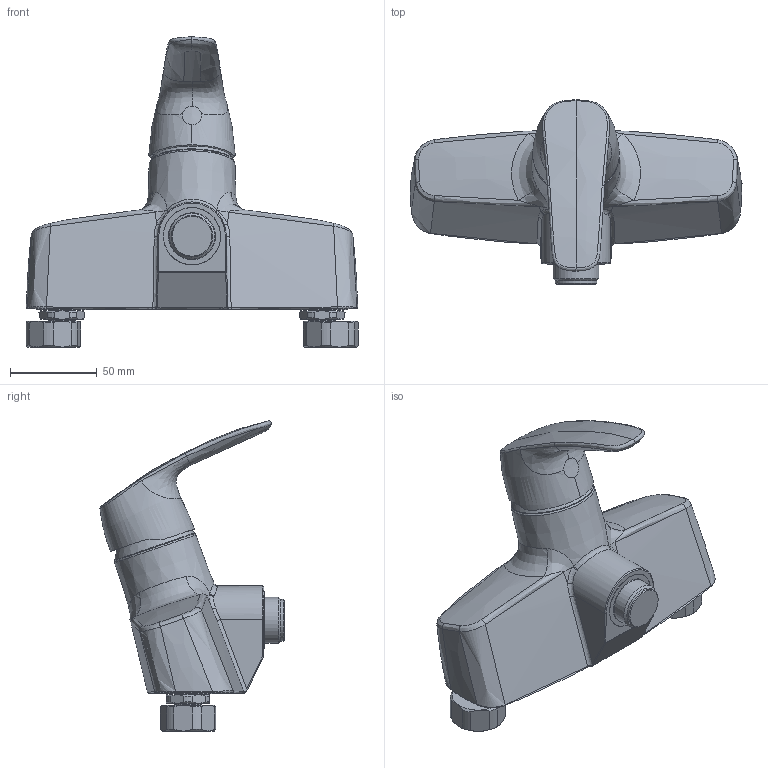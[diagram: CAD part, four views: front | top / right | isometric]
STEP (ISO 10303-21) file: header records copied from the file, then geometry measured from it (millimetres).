
FILE_DESCRIPTION (( 'STEP AP203' ), '1' );
FILE_NAME ('1054(2017).STEP', '2017-03-09T05:41:33', ( '' ), ( '' ), 'SwSTEP 2.0', 'SolidWorks 2016', '' );
FILE_SCHEMA (( 'CONFIG_CONTROL_DESIGN' ));
Length unit declared in the file: millimetre
Products named in the file (1): 1054(2017)
Bounding box: 191.49 x 106.26 x 178.92 mm (x, y, z)
Volume: 666172.3 mm3; surface area: 68660.9 mm2
Topology: 1 solids, 1 shells, 227 faces, 533 edges, 329 vertices
Faces by surface type: bspline 81, plane 52, cylinder 51, cone 35, torus 8
Full cylindrical faces by diameter (mm): 15.8 x4, 20 x2, 20.5 x2, 24 x3, 26 x2, 26.441 x1, 29 x2, 33 x1
Entity records: 18840 total; most frequent: CARTESIAN_POINT 14521, ORIENTED_EDGE 964, DIRECTION 674, EDGE_CURVE 482, VERTEX_POINT 312, AXIS2_PLACEMENT_3D 305, EDGE_LOOP 282, B_SPLINE_CURVE_WITH_KNOTS 251
